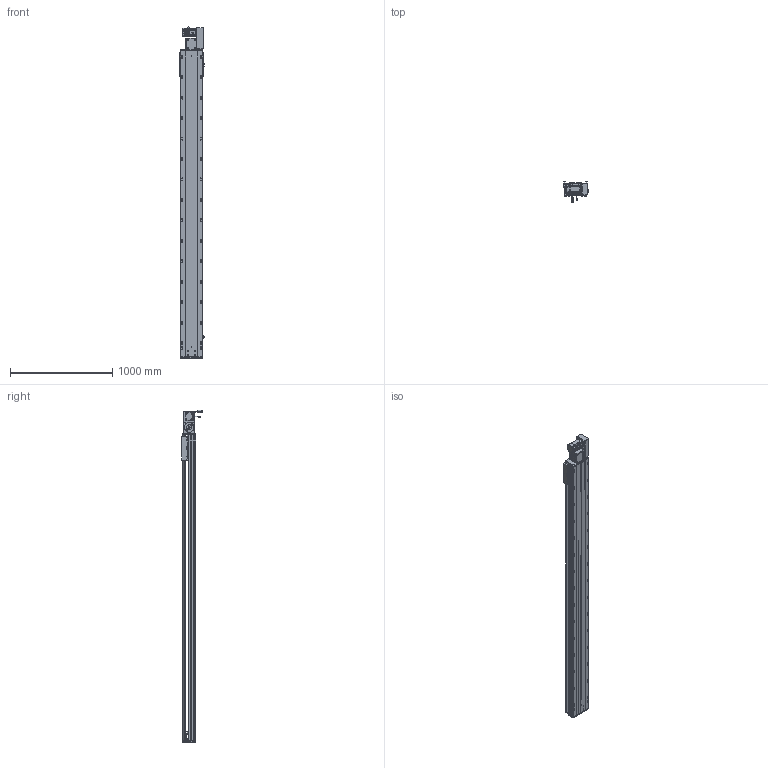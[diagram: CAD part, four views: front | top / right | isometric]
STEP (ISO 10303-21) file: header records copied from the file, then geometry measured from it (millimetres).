
FILE_DESCRIPTION (( 'STEP AP203' ), '1' );
FILE_NAME ('RY220-T-300-RK.SLDASM_2650.step', '2022-07-25T08:25:19', ( '' ), ( '' ), 'SwSTEP 2.0', 'SolidWorks 2016', '' );
FILE_SCHEMA (( 'CONFIG_CONTROL_DESIGN' ));
Length unit declared in the file: millimetre
Products named in the file (14): RY220-T-湍謫欶(鍼踢); RY220-同步轮副支撑座6304×2; RY220-T-300-奻裔啣_2650; RY220-T菁釱-300_2650; 110A-T-肮祭謫釱傷裔; 怢湛750W_ECMA-CX0807ES; RY220-俋离672覜茼んえ; RY220-T-蛌殏萇儂假蚾啣(750W); RY220翋肮祭謫釱; 覜茼ん672; RY220翋肮祭謫裔啣; RY220-T-300-RK.SLDASM_2650; RY220圉猾敕々湍臏賑輸; 滅袉蝶18-15
Assembly tree (18 placements, depth 2):
  RY220-T-300-RK.SLDASM_2650
    RY220-T菁釱-300_2650
    RY220翋肮祭謫釱
    覜茼ん672  x3
    RY220圉猾敕々湍臏賑輸
    RY220-T-300-奻裔啣_2650
    RY220-俋离672覜茼んえ
    滅袉蝶18-15  x3
    RY220翋肮祭謫裔啣  x2
    110A-T-肮祭謫釱傷裔
    怢湛750W_ECMA-CX0807ES
    RY220-T-湍謫欶(鍼踢)
    RY220-T-蛌殏萇儂假蚾啣(750W)
    RY220-同步轮副支撑座6304×2
Bounding box: 238.7 x 198.77 x 3245.24 mm (x, y, z)
Volume: 22935022 mm3; surface area: 7061460.5 mm2
Topology: 19 solids, 19 shells, 2966 faces, 8207 edges, 5148 vertices
Faces by surface type: cylinder 1458, plane 1069, cone 357, bspline 56, sphere 16, torus 10
Entity records: 98995 total; most frequent: CARTESIAN_POINT 27985, ORIENTED_EDGE 14682, DIRECTION 14144, EDGE_CURVE 7341, AXIS2_PLACEMENT_3D 5096, VERTEX_POINT 4772, LINE 3952, VECTOR 3952
